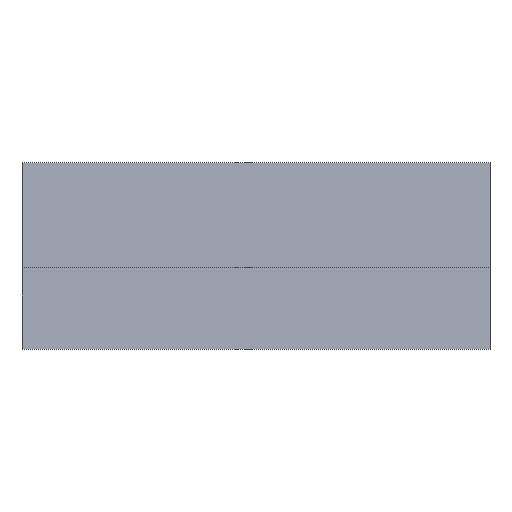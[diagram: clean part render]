
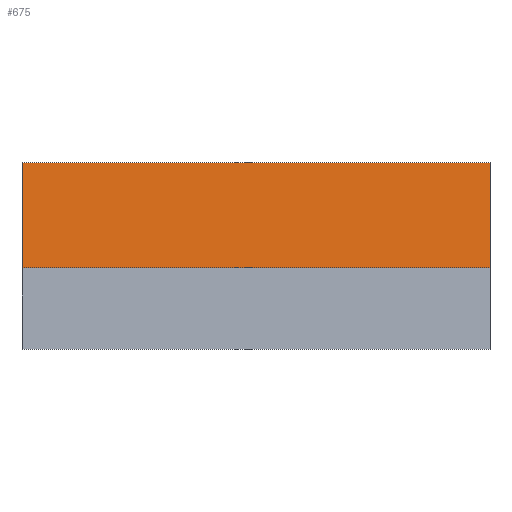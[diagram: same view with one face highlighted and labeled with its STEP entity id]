
A CAD part, front view. The second image highlights one B-rep face of the part: STEP entity #675.
In plain terms, the highlighted planar face has unit normal (0, -0.995, 0.104).
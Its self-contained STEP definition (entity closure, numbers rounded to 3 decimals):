
#32 = PLANE('',#33);
#33 = AXIS2_PLACEMENT_3D('',#34,#35,#36);
#34 = CARTESIAN_POINT('',(-29.,-1.118,25.167));
#35 = DIRECTION('',(1.,-0.,-0.));
#36 = DIRECTION('',(0.,0.,-1.));
#85 = VERTEX_POINT('',#86);
#86 = CARTESIAN_POINT('',(-29.,-5.949,-10.333));
#100 = PLANE('',#101);
#101 = AXIS2_PLACEMENT_3D('',#102,#103,#104);
#102 = CARTESIAN_POINT('',(-29.,-6.449,-10.333));
#103 = DIRECTION('',(-0.,-0.,-1.));
#104 = DIRECTION('',(0.,-1.,0.));
#112 = EDGE_CURVE('',#85,#113,#115,.T.);
#113 = VERTEX_POINT('',#114);
#114 = CARTESIAN_POINT('',(-29.,-4.863,0.));
#115 = SURFACE_CURVE('',#116,(#120,#127),.PCURVE_S1.);
#116 = LINE('',#117,#118);
#117 = CARTESIAN_POINT('',(-29.,-6.79,-18.333));
#118 = VECTOR('',#119,1.);
#119 = DIRECTION('',(-0.,0.105,0.995));
#120 = PCURVE('',#32,#121);
#121 = DEFINITIONAL_REPRESENTATION('',(#122),#126);
#122 = LINE('',#123,#124);
#123 = CARTESIAN_POINT('',(43.5,-5.672));
#124 = VECTOR('',#125,1.);
#125 = DIRECTION('',(-0.995,0.105));
#126 = ( GEOMETRIC_REPRESENTATION_CONTEXT(2) 
PARAMETRIC_REPRESENTATION_CONTEXT() REPRESENTATION_CONTEXT('2D SPACE',''
  ) );
#127 = PCURVE('',#128,#133);
#128 = PLANE('',#129);
#129 = AXIS2_PLACEMENT_3D('',#130,#131,#132);
#130 = CARTESIAN_POINT('',(-29.,-6.79,-18.333));
#131 = DIRECTION('',(0.,0.995,-0.105));
#132 = DIRECTION('',(0.,-0.105,-0.995));
#133 = DEFINITIONAL_REPRESENTATION('',(#134),#138);
#134 = LINE('',#135,#136);
#135 = CARTESIAN_POINT('',(-0.,0.));
#136 = VECTOR('',#137,1.);
#137 = DIRECTION('',(-1.,0.));
#138 = ( GEOMETRIC_REPRESENTATION_CONTEXT(2) 
PARAMETRIC_REPRESENTATION_CONTEXT() REPRESENTATION_CONTEXT('2D SPACE',''
  ) );
#156 = PLANE('',#157);
#157 = AXIS2_PLACEMENT_3D('',#158,#159,#160);
#158 = CARTESIAN_POINT('',(-400.,388.,0.));
#159 = DIRECTION('',(0.,0.,1.));
#160 = DIRECTION('',(-1.,-0.,0.));
#348 = PLANE('',#349);
#349 = AXIS2_PLACEMENT_3D('',#350,#351,#352);
#350 = CARTESIAN_POINT('',(17.,-1.118,25.167));
#351 = DIRECTION('',(1.,-0.,-0.));
#352 = DIRECTION('',(0.,0.,-1.));
#630 = EDGE_CURVE('',#631,#113,#633,.T.);
#631 = VERTEX_POINT('',#632);
#632 = CARTESIAN_POINT('',(17.,-4.863,0.));
#633 = SURFACE_CURVE('',#634,(#638,#645),.PCURVE_S1.);
#634 = LINE('',#635,#636);
#635 = CARTESIAN_POINT('',(-214.5,-4.863,0.));
#636 = VECTOR('',#637,1.);
#637 = DIRECTION('',(-1.,-0.,0.));
#638 = PCURVE('',#156,#639);
#639 = DEFINITIONAL_REPRESENTATION('',(#640),#644);
#640 = LINE('',#641,#642);
#641 = CARTESIAN_POINT('',(-185.5,392.863));
#642 = VECTOR('',#643,1.);
#643 = DIRECTION('',(1.,-0.));
#644 = ( GEOMETRIC_REPRESENTATION_CONTEXT(2) 
PARAMETRIC_REPRESENTATION_CONTEXT() REPRESENTATION_CONTEXT('2D SPACE',''
  ) );
#645 = PCURVE('',#128,#646);
#646 = DEFINITIONAL_REPRESENTATION('',(#647),#651);
#647 = LINE('',#648,#649);
#648 = CARTESIAN_POINT('',(-18.434,185.5));
#649 = VECTOR('',#650,1.);
#650 = DIRECTION('',(-0.,1.));
#651 = ( GEOMETRIC_REPRESENTATION_CONTEXT(2) 
PARAMETRIC_REPRESENTATION_CONTEXT() REPRESENTATION_CONTEXT('2D SPACE',''
  ) );
#675 = ADVANCED_FACE('',(#676),#128,.F.);
#676 = FACE_BOUND('',#677,.T.);
#677 = EDGE_LOOP('',(#678,#679,#702,#723));
#678 = ORIENTED_EDGE('',*,*,#112,.F.);
#679 = ORIENTED_EDGE('',*,*,#680,.T.);
#680 = EDGE_CURVE('',#85,#681,#683,.T.);
#681 = VERTEX_POINT('',#682);
#682 = CARTESIAN_POINT('',(17.,-5.949,-10.333));
#683 = SURFACE_CURVE('',#684,(#688,#695),.PCURVE_S1.);
#684 = LINE('',#685,#686);
#685 = CARTESIAN_POINT('',(-29.,-5.949,-10.333));
#686 = VECTOR('',#687,1.);
#687 = DIRECTION('',(1.,-0.,-0.));
#688 = PCURVE('',#128,#689);
#689 = DEFINITIONAL_REPRESENTATION('',(#690),#694);
#690 = LINE('',#691,#692);
#691 = CARTESIAN_POINT('',(-8.044,0.));
#692 = VECTOR('',#693,1.);
#693 = DIRECTION('',(-0.,-1.));
#694 = ( GEOMETRIC_REPRESENTATION_CONTEXT(2) 
PARAMETRIC_REPRESENTATION_CONTEXT() REPRESENTATION_CONTEXT('2D SPACE',''
  ) );
#695 = PCURVE('',#100,#696);
#696 = DEFINITIONAL_REPRESENTATION('',(#697),#701);
#697 = LINE('',#698,#699);
#698 = CARTESIAN_POINT('',(-0.5,0.));
#699 = VECTOR('',#700,1.);
#700 = DIRECTION('',(-0.,-1.));
#701 = ( GEOMETRIC_REPRESENTATION_CONTEXT(2) 
PARAMETRIC_REPRESENTATION_CONTEXT() REPRESENTATION_CONTEXT('2D SPACE',''
  ) );
#702 = ORIENTED_EDGE('',*,*,#703,.T.);
#703 = EDGE_CURVE('',#681,#631,#704,.T.);
#704 = SURFACE_CURVE('',#705,(#709,#716),.PCURVE_S1.);
#705 = LINE('',#706,#707);
#706 = CARTESIAN_POINT('',(17.,-6.79,-18.333));
#707 = VECTOR('',#708,1.);
#708 = DIRECTION('',(-0.,0.105,0.995));
#709 = PCURVE('',#128,#710);
#710 = DEFINITIONAL_REPRESENTATION('',(#711),#715);
#711 = LINE('',#712,#713);
#712 = CARTESIAN_POINT('',(-0.,-46.));
#713 = VECTOR('',#714,1.);
#714 = DIRECTION('',(-1.,0.));
#715 = ( GEOMETRIC_REPRESENTATION_CONTEXT(2) 
PARAMETRIC_REPRESENTATION_CONTEXT() REPRESENTATION_CONTEXT('2D SPACE',''
  ) );
#716 = PCURVE('',#348,#717);
#717 = DEFINITIONAL_REPRESENTATION('',(#718),#722);
#718 = LINE('',#719,#720);
#719 = CARTESIAN_POINT('',(43.5,-5.672));
#720 = VECTOR('',#721,1.);
#721 = DIRECTION('',(-0.995,0.105));
#722 = ( GEOMETRIC_REPRESENTATION_CONTEXT(2) 
PARAMETRIC_REPRESENTATION_CONTEXT() REPRESENTATION_CONTEXT('2D SPACE',''
  ) );
#723 = ORIENTED_EDGE('',*,*,#630,.T.);
